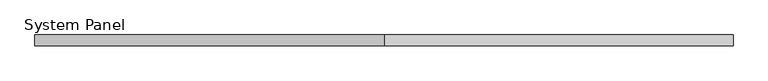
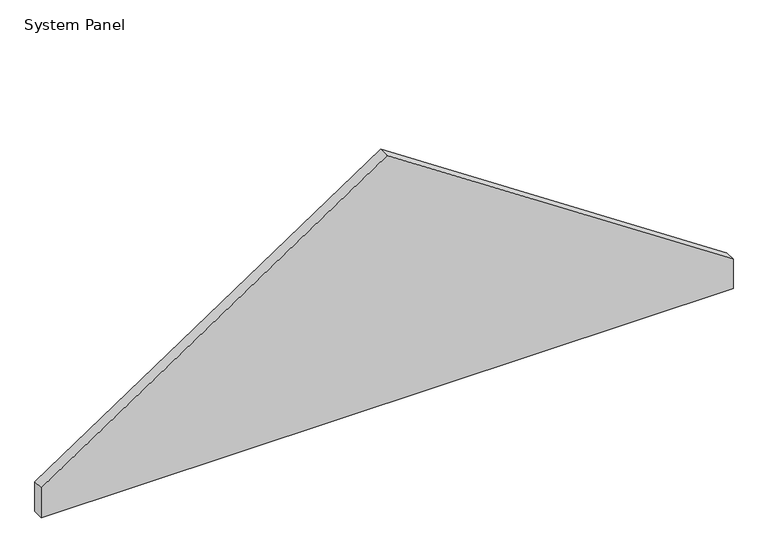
"""IFC4 building model written with IfcOpenShell, lengths in millimetres: plate geometry."""

from ifc_helpers import new_model, si_unit, frame, origin, place, context, project, spatial, polyline, outline, extrude, source, transform, mapped, element, save


def system_panel_68d08620(model_context):
    return source(origin(), model_context, "Body", "SweptSolid", [
        extrude(outline(polyline([(0.0, -1219.2), (0.0, 1219.2), (110.5958333, 1219.2), (923.3958333, 0.0), (110.5958333, -1219.2), (0.0, -1219.2)])), frame((0.0, -19.05, 0.0), z_axis=(0.0, 1.0, 0.0), x_axis=(0.0, 0.0, 1.0)), (0.0, 0.0, 1.0), 38.1),
    ])


if __name__ == "__main__":
    model = new_model("IFC4")
    model_context = context("Model", 3, world=origin())
    ifc_project = project(units=[si_unit("LENGTHUNIT", "METRE", prefix="MILLI")], contexts=[model_context])
    site = spatial("IfcSite", under=ifc_project)
    building = spatial("IfcBuilding", under=site)
    placement = place(None, origin())
    system_panel_shape = system_panel_68d08620(model_context)
    element("IfcPlate", 1, ObjectType="System Panel : 1/2\" Plywood & 1\" Rigid Ins.", at=placement, inside=building, context=model_context, shape_type="MappedRepresentation", body=[
        mapped(system_panel_shape, transform((0.0, 0.0, 0.0), x_axis=(1.0, 0.0, 0.0), y_axis=(0.0, 1.0, 0.0), z_axis=(0.0, 0.0, 1.0))),
    ])
    save(model, "model.ifc")
